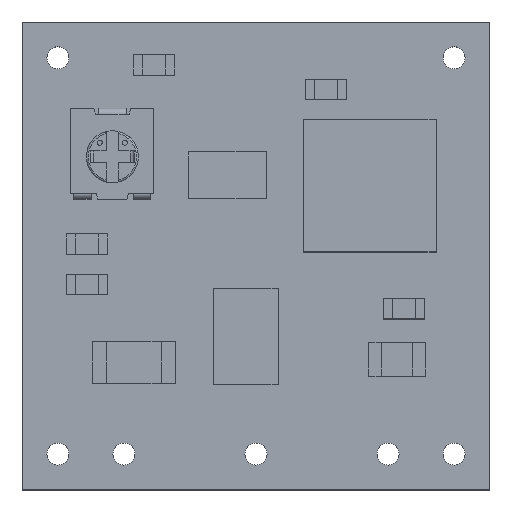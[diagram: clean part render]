
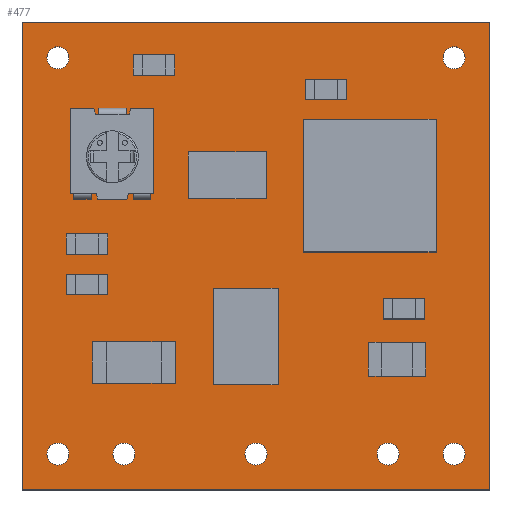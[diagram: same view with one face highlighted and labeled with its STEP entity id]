
A CAD part, top view. The second image highlights one B-rep face of the part: STEP entity #477.
In plain terms, the highlighted planar face has unit normal (0, 0, 1).
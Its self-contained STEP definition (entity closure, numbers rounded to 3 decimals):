
#96 = VERTEX_POINT('',#97);
#97 = CARTESIAN_POINT('',(0.,0.,1.));
#103 = EDGE_CURVE('',#96,#104,#106,.T.);
#104 = VERTEX_POINT('',#105);
#105 = CARTESIAN_POINT('',(18.,0.,1.));
#106 = LINE('',#107,#108);
#107 = CARTESIAN_POINT('',(0.,0.,1.));
#108 = VECTOR('',#109,1.);
#109 = DIRECTION('',(1.,0.,0.));
#134 = EDGE_CURVE('',#104,#135,#137,.T.);
#135 = VERTEX_POINT('',#136);
#136 = CARTESIAN_POINT('',(18.,18.,1.));
#137 = LINE('',#138,#139);
#138 = CARTESIAN_POINT('',(18.,0.,1.));
#139 = VECTOR('',#140,1.);
#140 = DIRECTION('',(0.,1.,0.));
#165 = EDGE_CURVE('',#135,#166,#168,.T.);
#166 = VERTEX_POINT('',#167);
#167 = CARTESIAN_POINT('',(0.,18.,1.));
#168 = LINE('',#169,#170);
#169 = CARTESIAN_POINT('',(18.,18.,1.));
#170 = VECTOR('',#171,1.);
#171 = DIRECTION('',(-1.,0.,0.));
#196 = EDGE_CURVE('',#166,#96,#197,.T.);
#197 = LINE('',#198,#199);
#198 = CARTESIAN_POINT('',(0.,18.,1.));
#199 = VECTOR('',#200,1.);
#200 = DIRECTION('',(0.,-1.,0.));
#220 = VERTEX_POINT('',#221);
#221 = CARTESIAN_POINT('',(1.805,1.38,1.));
#227 = EDGE_CURVE('',#220,#220,#228,.T.);
#228 = CIRCLE('',#229,0.425);
#229 = AXIS2_PLACEMENT_3D('',#230,#231,#232);
#230 = CARTESIAN_POINT('',(1.38,1.38,1.));
#231 = DIRECTION('',(0.,0.,1.));
#232 = DIRECTION('',(1.,0.,-0.));
#253 = VERTEX_POINT('',#254);
#254 = CARTESIAN_POINT('',(1.805,16.62,1.));
#260 = EDGE_CURVE('',#253,#253,#261,.T.);
#261 = CIRCLE('',#262,0.425);
#262 = AXIS2_PLACEMENT_3D('',#263,#264,#265);
#263 = CARTESIAN_POINT('',(1.38,16.62,1.));
#264 = DIRECTION('',(0.,0.,1.));
#265 = DIRECTION('',(1.,0.,-0.));
#286 = VERTEX_POINT('',#287);
#287 = CARTESIAN_POINT('',(4.345,1.38,1.));
#293 = EDGE_CURVE('',#286,#286,#294,.T.);
#294 = CIRCLE('',#295,0.425);
#295 = AXIS2_PLACEMENT_3D('',#296,#297,#298);
#296 = CARTESIAN_POINT('',(3.92,1.38,1.));
#297 = DIRECTION('',(0.,0.,1.));
#298 = DIRECTION('',(1.,0.,-0.));
#319 = VERTEX_POINT('',#320);
#320 = CARTESIAN_POINT('',(9.425,1.38,1.));
#326 = EDGE_CURVE('',#319,#319,#327,.T.);
#327 = CIRCLE('',#328,0.425);
#328 = AXIS2_PLACEMENT_3D('',#329,#330,#331);
#329 = CARTESIAN_POINT('',(9.,1.38,1.));
#330 = DIRECTION('',(0.,0.,1.));
#331 = DIRECTION('',(1.,0.,-0.));
#352 = VERTEX_POINT('',#353);
#353 = CARTESIAN_POINT('',(14.505,1.38,1.));
#359 = EDGE_CURVE('',#352,#352,#360,.T.);
#360 = CIRCLE('',#361,0.425);
#361 = AXIS2_PLACEMENT_3D('',#362,#363,#364);
#362 = CARTESIAN_POINT('',(14.08,1.38,1.));
#363 = DIRECTION('',(0.,0.,1.));
#364 = DIRECTION('',(1.,0.,-0.));
#385 = VERTEX_POINT('',#386);
#386 = CARTESIAN_POINT('',(17.045,16.62,1.));
#392 = EDGE_CURVE('',#385,#385,#393,.T.);
#393 = CIRCLE('',#394,0.425);
#394 = AXIS2_PLACEMENT_3D('',#395,#396,#397);
#395 = CARTESIAN_POINT('',(16.62,16.62,1.));
#396 = DIRECTION('',(0.,0.,1.));
#397 = DIRECTION('',(1.,0.,-0.));
#418 = VERTEX_POINT('',#419);
#419 = CARTESIAN_POINT('',(17.045,1.38,1.));
#425 = EDGE_CURVE('',#418,#418,#426,.T.);
#426 = CIRCLE('',#427,0.425);
#427 = AXIS2_PLACEMENT_3D('',#428,#429,#430);
#428 = CARTESIAN_POINT('',(16.62,1.38,1.));
#429 = DIRECTION('',(0.,0.,1.));
#430 = DIRECTION('',(1.,0.,-0.));
#477 = ADVANCED_FACE('',(#478,#484,#487,#490,#493,#496,#499,#502),#505,
  .T.);
#478 = FACE_BOUND('',#479,.T.);
#479 = EDGE_LOOP('',(#480,#481,#482,#483));
#480 = ORIENTED_EDGE('',*,*,#103,.T.);
#481 = ORIENTED_EDGE('',*,*,#134,.T.);
#482 = ORIENTED_EDGE('',*,*,#165,.T.);
#483 = ORIENTED_EDGE('',*,*,#196,.T.);
#484 = FACE_BOUND('',#485,.T.);
#485 = EDGE_LOOP('',(#486));
#486 = ORIENTED_EDGE('',*,*,#227,.F.);
#487 = FACE_BOUND('',#488,.T.);
#488 = EDGE_LOOP('',(#489));
#489 = ORIENTED_EDGE('',*,*,#260,.F.);
#490 = FACE_BOUND('',#491,.T.);
#491 = EDGE_LOOP('',(#492));
#492 = ORIENTED_EDGE('',*,*,#293,.F.);
#493 = FACE_BOUND('',#494,.T.);
#494 = EDGE_LOOP('',(#495));
#495 = ORIENTED_EDGE('',*,*,#326,.F.);
#496 = FACE_BOUND('',#497,.T.);
#497 = EDGE_LOOP('',(#498));
#498 = ORIENTED_EDGE('',*,*,#359,.F.);
#499 = FACE_BOUND('',#500,.T.);
#500 = EDGE_LOOP('',(#501));
#501 = ORIENTED_EDGE('',*,*,#392,.F.);
#502 = FACE_BOUND('',#503,.T.);
#503 = EDGE_LOOP('',(#504));
#504 = ORIENTED_EDGE('',*,*,#425,.F.);
#505 = PLANE('',#506);
#506 = AXIS2_PLACEMENT_3D('',#507,#508,#509);
#507 = CARTESIAN_POINT('',(9.,9.,1.));
#508 = DIRECTION('',(0.,0.,1.));
#509 = DIRECTION('',(1.,0.,-0.));
